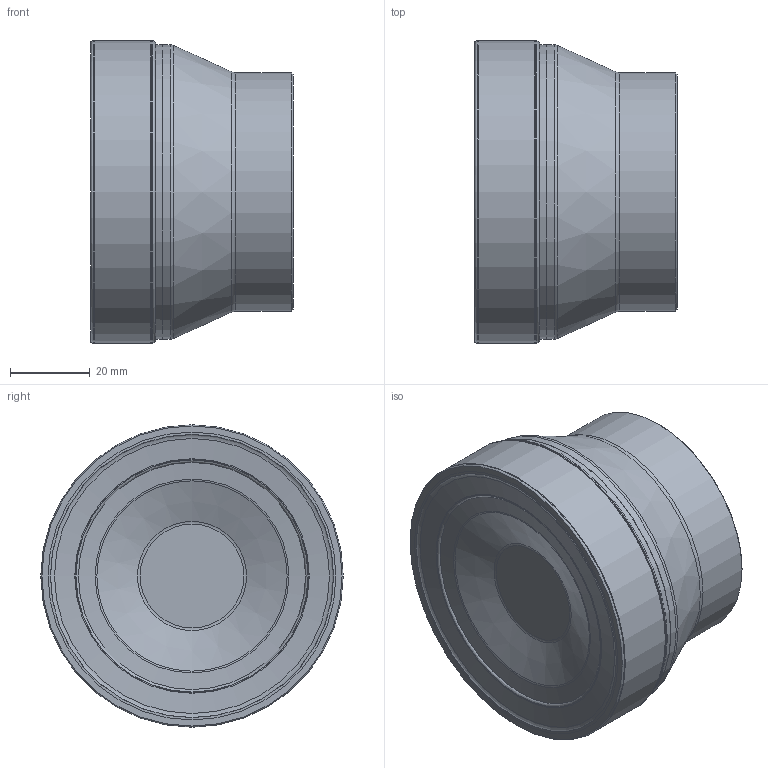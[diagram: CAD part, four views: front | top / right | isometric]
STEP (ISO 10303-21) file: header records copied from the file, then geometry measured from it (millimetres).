
FILE_DESCRIPTION(/* description */ (''),/* implementation_level */ '2;1');
FILE_NAME(/* name */ 'EMP02-3.00''''-A1.00''''-AP16-07.stp',/* time_stamp */ '2022-03-29T11:12:54+08:00',/* author */ (''),/* organization */ (''),/* preprocessor_version */ 'ST-DEVELOPER v16.7',/* originating_system */ 'SIEMENS PLM Software NX 12.0',/* authorisation */ '');
FILE_SCHEMA (('AUTOMOTIVE_DESIGN { 1 0 10303 214 3 1 1 1 }'));
Length unit declared in the file: millimetre
Products named in the file (1): heyu23945552hgvj
Bounding box: 50.8 x 76.01 x 76.01 mm (x, y, z)
Volume: 177927.3 mm3; surface area: 18791.7 mm2
Topology: 1 solids, 1 shells, 33 faces, 68 edges, 37 vertices
Faces by surface type: revolution 16, cone 8, torus 5, cylinder 2, plane 2
Full cylindrical faces by diameter (mm): 60 x1, 74.044 x1
Entity records: 782 total; most frequent: CARTESIAN_POINT 194, DIRECTION 116, EDGE_LOOP 64, ORIENTED_EDGE 64, FACE_BOUND 62, AXIS2_PLACEMENT_3D 50, ADVANCED_FACE 33, VERTEX_POINT 32
